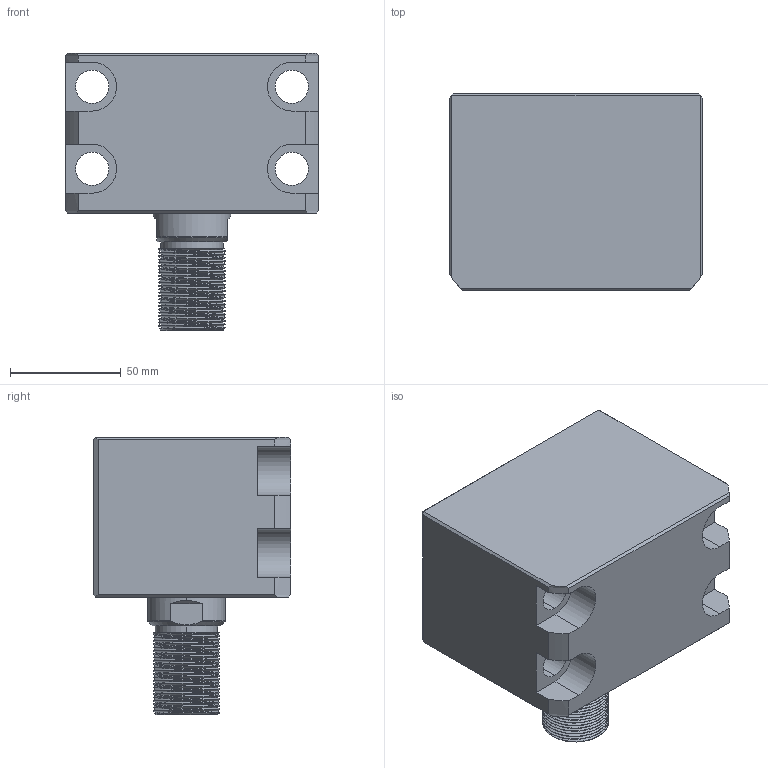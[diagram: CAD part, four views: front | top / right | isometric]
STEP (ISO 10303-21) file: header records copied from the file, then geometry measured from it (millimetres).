
FILE_DESCRIPTION (( 'STEP AP214' ), '1' );
FILE_NAME ('chtb-lam63x5w_asm.STEP', '2018-05-22T03:24:33', ( 'Windows' ), ( 'Microsoft' ), 'SwSTEP 2.0', 'SolidWorks 2015', '' );
FILE_SCHEMA (( 'AUTOMOTIVE_DESIGN' ));
Length unit declared in the file: millimetre
Products named in the file (4): CHTB-LAM63X5NBT; CHTB63X5WHSG; CHTB-63QG; chtb-lam63x5w_asm
Assembly tree (3 placements, depth 2):
  chtb-lam63x5w_asm
    CHTB-63QG
    CHTB63X5WHSG
    CHTB-LAM63X5NBT
Bounding box: 114 x 89 x 125 mm (x, y, z)
Volume: 676981.3 mm3; surface area: 118118.6 mm2
Topology: 3 solids, 3 shells, 223 faces, 663 edges, 451 vertices
Faces by surface type: cylinder 143, plane 50, bspline 15, cone 9, torus 6
Entity records: 23129 total; most frequent: CARTESIAN_POINT 17711, ORIENTED_EDGE 1318, DIRECTION 875, EDGE_CURVE 659, VERTEX_POINT 451, AXIS2_PLACEMENT_3D 320, EDGE_LOOP 246, VECTOR 235
